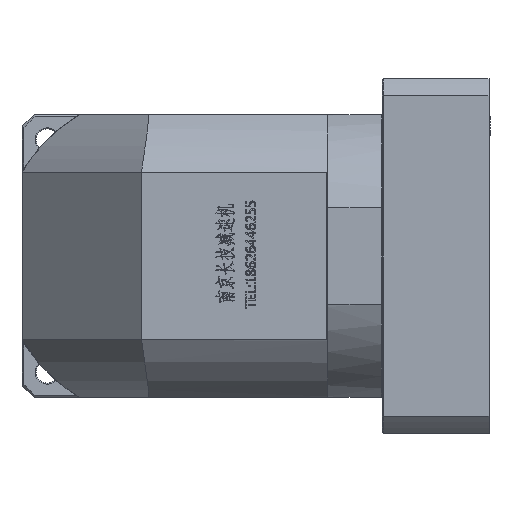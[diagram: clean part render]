
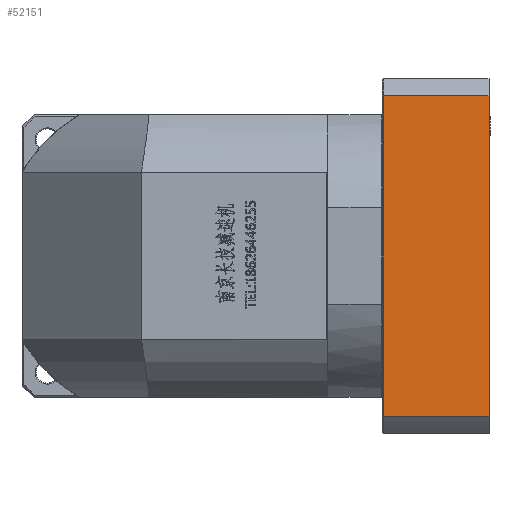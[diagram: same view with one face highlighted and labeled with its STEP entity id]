
A CAD part, left-side view. The second image highlights one B-rep face of the part: STEP entity #52151.
In plain terms, the highlighted planar face has unit normal (-1, 0, 0).
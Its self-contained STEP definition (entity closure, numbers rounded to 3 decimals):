
#43 = LINE ( 'NONE', #55782, #55148 ) ;
#1791 = PLANE ( 'NONE',  #38592 ) ;
#8323 = FACE_OUTER_BOUND ( 'NONE', #47953, .T. ) ;
#8743 = CARTESIAN_POINT ( 'NONE',  ( -47.552, -170.319, 317.864 ) ) ;
#14914 = EDGE_CURVE ( 'NONE', #131733, #130502, #149601, .T. ) ;
#27282 = DIRECTION ( 'NONE',  ( 1., 0., 0. ) ) ;
#29572 = CARTESIAN_POINT ( 'NONE',  ( -47.552, -223.819, 148.371 ) ) ;
#33406 = ORIENTED_EDGE ( 'NONE', *, *, #127316, .F. ) ;
#38592 = AXIS2_PLACEMENT_3D ( 'NONE', #29572, #27282, #122405 ) ;
#42639 = DIRECTION ( 'NONE',  ( 0., 0., -1. ) ) ;
#46975 = VECTOR ( 'NONE', #149637, 1000. ) ;
#47953 = EDGE_LOOP ( 'NONE', ( #49706, #130976, #56683, #33406 ) ) ;
#49706 = ORIENTED_EDGE ( 'NONE', *, *, #81552, .F. ) ;
#52151 = ADVANCED_FACE ( 'NONE', ( #8323 ), #1791, .F. ) ;
#55148 = VECTOR ( 'NONE', #42639, 1000. ) ;
#55782 = CARTESIAN_POINT ( 'NONE',  ( -47.552, -223.319, 148.371 ) ) ;
#56683 = ORIENTED_EDGE ( 'NONE', *, *, #69305, .F. ) ;
#58168 = LINE ( 'NONE', #153618, #92168 ) ;
#69305 = EDGE_CURVE ( 'NONE', #122799, #130502, #58168, .T. ) ;
#73038 = VECTOR ( 'NONE', #84135, 1000. ) ;
#81552 = EDGE_CURVE ( 'NONE', #131733, #126862, #108820, .T. ) ;
#84135 = DIRECTION ( 'NONE',  ( 0., 0., -1. ) ) ;
#91276 = CARTESIAN_POINT ( 'NONE',  ( -47.552, -223.319, 317.864 ) ) ;
#92168 = VECTOR ( 'NONE', #113279, 1000. ) ;
#108820 = LINE ( 'NONE', #161462, #46975 ) ;
#113279 = DIRECTION ( 'NONE',  ( 0., 1., 0. ) ) ;
#121435 = CARTESIAN_POINT ( 'NONE',  ( -47.552, -223.319, 156.879 ) ) ;
#122405 = DIRECTION ( 'NONE',  ( 0., 1., 0. ) ) ;
#122799 = VERTEX_POINT ( 'NONE', #121435 ) ;
#126862 = VERTEX_POINT ( 'NONE', #91276 ) ;
#127316 = EDGE_CURVE ( 'NONE', #126862, #122799, #43, .T. ) ;
#130502 = VERTEX_POINT ( 'NONE', #164244 ) ;
#130976 = ORIENTED_EDGE ( 'NONE', *, *, #14914, .T. ) ;
#131733 = VERTEX_POINT ( 'NONE', #8743 ) ;
#149601 = LINE ( 'NONE', #164217, #73038 ) ;
#149637 = DIRECTION ( 'NONE',  ( 0., -1., 0. ) ) ;
#153618 = CARTESIAN_POINT ( 'NONE',  ( -47.552, 172.986, 156.879 ) ) ;
#161462 = CARTESIAN_POINT ( 'NONE',  ( -47.552, -223.819, 317.864 ) ) ;
#164217 = CARTESIAN_POINT ( 'NONE',  ( -47.552, -170.319, 148.371 ) ) ;
#164244 = CARTESIAN_POINT ( 'NONE',  ( -47.552, -170.319, 156.879 ) ) ;
